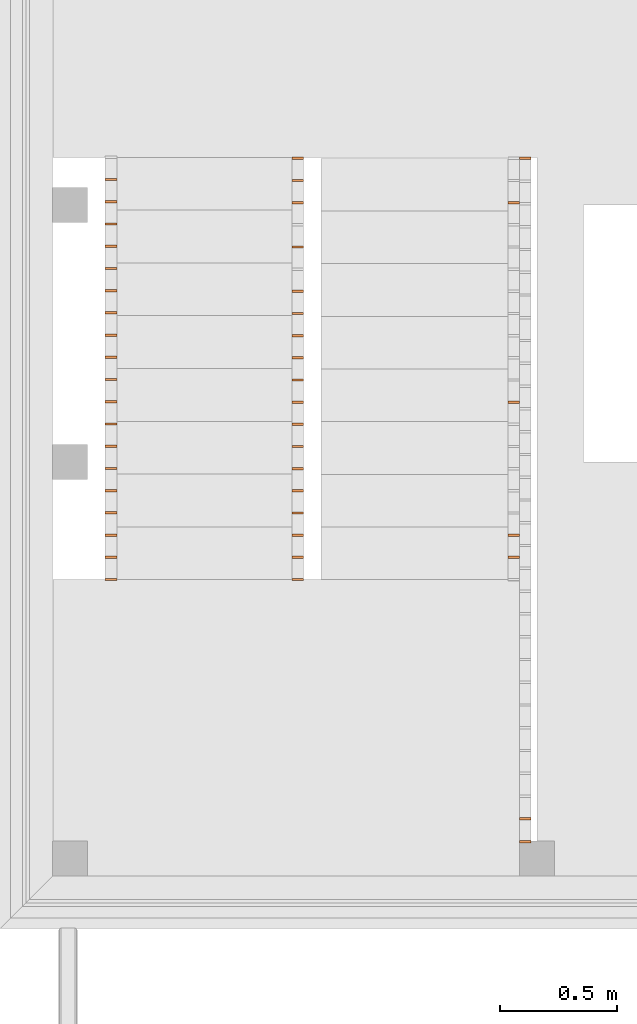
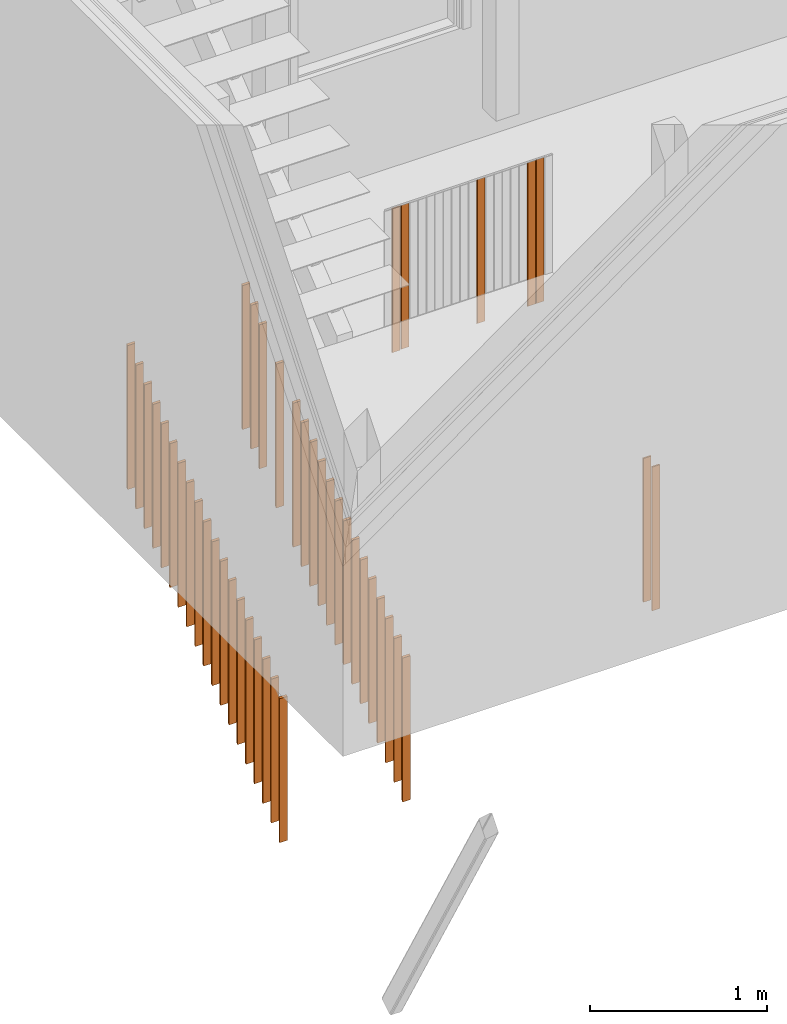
# One storey, part 93 of 100: 44 proxies, 4 elements without a shape of their own.
"""IFC2X3 building model written with IfcOpenShell, lengths in millimetres."""

from ifc_helpers import new_model, entity, si_unit, converted_unit, derived_unit, money_unit, direction, frame, origin_with_axes, place, context, subcontext, project, spatial, faceted_brep, material, type_object, element, aggregate, save


model = new_model("IFC2X3")

# Units and contexts
model_context = context("Model", 3, precision=0.01, world=origin_with_axes(), true_north=direction((0.0, 1.0)))
body_context = subcontext(model_context, "Body", "Model", "MODEL_VIEW")
ifc_project = project(units=[si_unit("LENGTHUNIT", "METRE", prefix="MILLI"), si_unit("AREAUNIT", "SQUARE_METRE"), si_unit("VOLUMEUNIT", "CUBIC_METRE"), converted_unit("PLANEANGLEUNIT", "DEGREE", entity("IfcPlaneAngleMeasure", 0.0174532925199), si_unit("PLANEANGLEUNIT", "RADIAN"), dimensions=[0, 0, 0, 0, 0, 0, 0]), si_unit("SOLIDANGLEUNIT", "STERADIAN"), money_unit("EUR"), converted_unit("TIMEUNIT", "Year", entity("IfcTimeMeasure", 31556926.0), si_unit("TIMEUNIT", "SECOND"), dimensions=[0, 0, 1, 0, 0, 0, 0]), si_unit("MASSUNIT", "GRAM", prefix="KILO"), si_unit("THERMODYNAMICTEMPERATUREUNIT", "DEGREE_CELSIUS"), si_unit("LUMINOUSINTENSITYUNIT", "LUMEN"), si_unit("ENERGYUNIT", "JOULE", prefix="MEGA"), derived_unit("THERMALCONDUCTANCEUNIT", [(si_unit("POWERUNIT", "WATT"), 1), (si_unit("LENGTHUNIT", "METRE"), -1), (si_unit("THERMODYNAMICTEMPERATUREUNIT", "KELVIN"), -1)]), derived_unit("SPECIFICHEATCAPACITYUNIT", [(si_unit("ENERGYUNIT", "JOULE"), 1), (si_unit("MASSUNIT", "GRAM", prefix="KILO"), -1), (si_unit("THERMODYNAMICTEMPERATUREUNIT", "KELVIN"), -1)]), derived_unit("MASSDENSITYUNIT", [(si_unit("MASSUNIT", "GRAM", prefix="KILO"), 1), (si_unit("VOLUMEUNIT", "CUBIC_METRE"), -1)])], contexts=[model_context])

# Site, building, storey
site_placement = place(None, origin_with_axes())
site = spatial("IfcSite", under=ifc_project, at=site_placement, Name="Politse- ja Piirivalveameti ning Päästeameti ühishoone", CompositionType="ELEMENT")
building_placement = place(site_placement, origin_with_axes())
building = spatial("IfcBuilding", under=site, at=building_placement, Name="Politse- ja Piirivalveameti ning Päästeameti ühishoone", CompositionType="ELEMENT")
storey_placement = place(building_placement, frame((0.0, 0.0, 3800.0), z_axis=(0.0, 0.0, 1.0), x_axis=(1.0, 0.0, 0.0)))
storey = spatial("IfcBuildingStorey", under=building, at=storey_placement, Name="Teine korrus", CompositionType="ELEMENT", Elevation=3800.0)

# Railing, proxies
railing_type = type_object("IfcRailingType", Name="Railing Type", PredefinedType="NOTDEFINED")
railing_1_placement = place(storey_placement, frame((-12181.9616228, 2843.99975677, -499.999968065), z_axis=(0.0, 0.0, 1.0), x_axis=(1.0, 0.0, 0.0)))
railing_1 = element("IfcRailing", 1, at=railing_1_placement, inside=storey, type_object=railing_type, Name="PIIRE 2", PredefinedType="NOTDEFINED")
ifc_material = material(Name="Teras - Konstruktsioon")
building_element_proxy_type = type_object("IfcBuildingElementProxyType", Name="IfcBuildingElementProxy", PredefinedType="NOTDEFINED")
proxy_1_placement = place(railing_1_placement, frame((25.0, 156.927427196, 0.0), z_axis=(0.0, 0.0, 1.0), x_axis=(1.0, 0.0, 0.0)))
proxy_1 = element("IfcBuildingElementProxy", 2, at=proxy_1_placement, type_object=building_element_proxy_type, material=ifc_material, Name="PIIRDE POST - 001", context=body_context, shape_type="Brep", body=[
    faceted_brep([(-25.0, -5.0, 0.0), (25.0, -5.0, 0.0), (25.0, -5.0, 990.0), (-25.0, -5.0, 990.0), (-25.0, 5.0, 0.0), (25.0, 5.0, 0.0), (25.0, 5.0, 990.0), (-25.0, 5.0, 990.0)], [[[0, 1, 2, 3]], [[0, 4, 5, 1]], [[1, 5, 6, 2]], [[3, 2, 6, 7]], [[4, 0, 3, 7]], [[5, 4, 7, 6]]]),
])
proxy_2_placement = place(railing_1_placement, frame((25.0, -2771.82361446, 0.0), z_axis=(0.0, 0.0, 1.0), x_axis=(1.0, 0.0, 0.0)))
proxy_2 = element("IfcBuildingElementProxy", 3, at=proxy_2_placement, type_object=building_element_proxy_type, material=ifc_material, Name="PIIRDE POST - 001", context=body_context, shape_type="Brep", body=[
    faceted_brep([(-25.0, -5.0, 0.0), (25.0, -5.0, 0.0), (25.0, -5.0, 990.0), (-25.0, -5.0, 990.0), (-25.0, 5.0, 0.0), (25.0, 5.0, 0.0), (25.0, 5.0, 990.0), (-25.0, 5.0, 990.0)], [[[0, 1, 2, 3]], [[0, 4, 5, 1]], [[1, 5, 6, 2]], [[3, 2, 6, 7]], [[4, 0, 3, 7]], [[5, 4, 7, 6]]]),
])
proxy_3_placement = place(railing_1_placement, frame((25.0, -2674.19857974, -1.25516996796e-05), z_axis=(0.0, 0.0, 1.0), x_axis=(1.0, 0.0, 0.0)))
proxy_3 = element("IfcBuildingElementProxy", 4, at=proxy_3_placement, type_object=building_element_proxy_type, material=ifc_material, Name="BALUSTER - 001", context=body_context, shape_type="Brep", body=[
    faceted_brep([(-25.0, -5.0, 0.0), (25.0, -5.0, 0.0), (25.0, -5.0, 990.000012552), (-25.0, -5.0, 990.000012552), (-25.0, 5.0, 0.0), (25.0, 5.0, 0.0), (25.0, 5.0, 990.000012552), (-25.0, 5.0, 990.000012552)], [[[0, 1, 2, 3]], [[0, 4, 5, 1]], [[1, 5, 6, 2]], [[3, 2, 6, 7]], [[4, 0, 3, 7]], [[5, 4, 7, 6]]]),
])
aggregate(railing_1, [proxy_1, proxy_2, proxy_3])

railing_2_placement = place(storey_placement, frame((-13107.2062017, 2701.0725728, -2150.0), z_axis=(0.0, 0.0, 1.0), x_axis=(1.0, 0.0, 0.0)))
railing_2 = element("IfcRailing", 5, at=railing_2_placement, inside=storey, type_object=railing_type, Name="PIIRE 2", PredefinedType="NOTDEFINED")
proxy_4_placement = place(railing_2_placement, frame((-25.0, 299.854611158, 1466.66666667), z_axis=(0.0, 0.0, 1.0), x_axis=(1.0, 0.0, 0.0)))
proxy_4 = element("IfcBuildingElementProxy", 6, at=proxy_4_placement, type_object=building_element_proxy_type, material=ifc_material, Name="PIIRDE POST - 001", context=body_context, shape_type="Brep", body=[
    faceted_brep([(-25.0, -5.0, -4.06182724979), (25.0, -5.0, -4.06182724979), (25.0, -5.0, 985.93817275), (-25.0, -5.0, 985.93817275), (-25.0, 5.0, 4.06182724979), (25.0, 5.0, 4.06182724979), (25.0, 5.0, 994.06182725), (-25.0, 5.0, 994.06182725)], [[[0, 1, 2, 3]], [[0, 4, 5, 1]], [[1, 5, 6, 2]], [[3, 2, 6, 7]], [[4, 0, 3, 7]], [[5, 4, 7, 6]]]),
])
proxy_5_placement = place(railing_2_placement, frame((-25.0, -1505.5725728, 0.0), z_axis=(0.0, 0.0, 1.0), x_axis=(1.0, 0.0, 0.0)))
proxy_5 = element("IfcBuildingElementProxy", 7, at=proxy_5_placement, type_object=building_element_proxy_type, material=ifc_material, Name="PIIRDE POST - 001", context=body_context, shape_type="Brep", body=[
    faceted_brep([(-25.0, -5.0, -4.06182724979), (25.0, -5.0, -4.06182724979), (25.0, -5.0, 985.93817275), (-25.0, -5.0, 985.93817275), (-25.0, 5.0, 4.06182724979), (25.0, 5.0, 4.06182724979), (25.0, 5.0, 994.06182725), (-25.0, 5.0, 994.06182725)], [[[0, 1, 2, 3]], [[0, 4, 5, 1]], [[1, 5, 6, 2]], [[3, 2, 6, 7]], [[4, 0, 3, 7]], [[5, 4, 7, 6]]]),
])
proxy_6_placement = place(railing_2_placement, frame((-25.0, 204.832127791, 1389.47367166), z_axis=(0.0, 0.0, 1.0), x_axis=(1.0, 0.0, 0.0)))
proxy_6 = element("IfcBuildingElementProxy", 8, at=proxy_6_placement, type_object=building_element_proxy_type, material=ifc_material, Name="BALUSTER - 001", context=body_context, shape_type="Brep", body=[
    faceted_brep([(-25.0, -5.0, -4.06182724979), (25.0, -5.0, -4.06182724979), (25.0, -5.0, 985.938185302), (-25.0, -5.0, 985.938185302), (-25.0, 5.0, 4.06182724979), (25.0, 5.0, 4.06182724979), (25.0, 5.0, 994.061839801), (-25.0, 5.0, 994.061839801)], [[[0, 1, 2, 3]], [[0, 4, 5, 1]], [[1, 5, 6, 2]], [[3, 2, 6, 7]], [[4, 0, 3, 7]], [[5, 4, 7, 6]]]),
])
proxy_7_placement = place(railing_2_placement, frame((-25.0, 109.809644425, 1312.2806892), z_axis=(0.0, 0.0, 1.0), x_axis=(1.0, 0.0, 0.0)))
proxy_7 = element("IfcBuildingElementProxy", 9, at=proxy_7_placement, type_object=building_element_proxy_type, material=ifc_material, Name="BALUSTER - 001", context=body_context, shape_type="Brep", body=[
    faceted_brep([(-25.0, -5.0, -4.06182724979), (25.0, -5.0, -4.06182724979), (25.0, -5.0, 985.938185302), (-25.0, -5.0, 985.938185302), (-25.0, 5.0, 4.06182724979), (25.0, 5.0, 4.06182724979), (25.0, 5.0, 994.061839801), (-25.0, 5.0, 994.061839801)], [[[0, 1, 2, 3]], [[0, 4, 5, 1]], [[1, 5, 6, 2]], [[3, 2, 6, 7]], [[4, 0, 3, 7]], [[5, 4, 7, 6]]]),
])
proxy_8_placement = place(railing_2_placement, frame((-25.0, -80.235322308, 1157.89472429), z_axis=(0.0, 0.0, 1.0), x_axis=(1.0, 0.0, 0.0)))
proxy_8 = element("IfcBuildingElementProxy", 10, at=proxy_8_placement, type_object=building_element_proxy_type, material=ifc_material, Name="BALUSTER - 001", context=body_context, shape_type="Brep", body=[
    faceted_brep([(-25.0, -5.0, -4.06182724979), (25.0, -5.0, -4.06182724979), (25.0, -5.0, 985.938185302), (-25.0, -5.0, 985.938185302), (-25.0, 5.0, 4.06182724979), (25.0, 5.0, 4.06182724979), (25.0, 5.0, 994.061839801), (-25.0, 5.0, 994.061839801)], [[[0, 1, 2, 3]], [[0, 4, 5, 1]], [[1, 5, 6, 2]], [[3, 2, 6, 7]], [[4, 0, 3, 7]], [[5, 4, 7, 6]]]),
])
proxy_9_placement = place(railing_2_placement, frame((-25.0, -270.280289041, 1003.50875938), z_axis=(0.0, 0.0, 1.0), x_axis=(1.0, 0.0, 0.0)))
proxy_9 = element("IfcBuildingElementProxy", 11, at=proxy_9_placement, type_object=building_element_proxy_type, material=ifc_material, Name="BALUSTER - 001", context=body_context, shape_type="Brep", body=[
    faceted_brep([(-25.0, -5.0, -4.06182724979), (25.0, -5.0, -4.06182724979), (25.0, -5.0, 985.938185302), (-25.0, -5.0, 985.938185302), (-25.0, 5.0, 4.06182724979), (25.0, 5.0, 4.06182724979), (25.0, 5.0, 994.061839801), (-25.0, 5.0, 994.061839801)], [[[0, 1, 2, 3]], [[0, 4, 5, 1]], [[1, 5, 6, 2]], [[3, 2, 6, 7]], [[4, 0, 3, 7]], [[5, 4, 7, 6]]]),
])
proxy_10_placement = place(railing_2_placement, frame((-25.0, -365.302772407, 926.315776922), z_axis=(0.0, 0.0, 1.0), x_axis=(1.0, 0.0, 0.0)))
proxy_10 = element("IfcBuildingElementProxy", 12, at=proxy_10_placement, type_object=building_element_proxy_type, material=ifc_material, Name="BALUSTER - 001", context=body_context, shape_type="Brep", body=[
    faceted_brep([(-25.0, -5.0, -4.06182724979), (25.0, -5.0, -4.06182724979), (25.0, -5.0, 985.938185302), (-25.0, -5.0, 985.938185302), (-25.0, 5.0, 4.06182724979), (25.0, 5.0, 4.06182724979), (25.0, 5.0, 994.061839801), (-25.0, 5.0, 994.061839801)], [[[0, 1, 2, 3]], [[0, 4, 5, 1]], [[1, 5, 6, 2]], [[3, 2, 6, 7]], [[4, 0, 3, 7]], [[5, 4, 7, 6]]]),
])
proxy_11_placement = place(railing_2_placement, frame((-25.0, -460.325255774, 849.122794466), z_axis=(0.0, 0.0, 1.0), x_axis=(1.0, 0.0, 0.0)))
proxy_11 = element("IfcBuildingElementProxy", 13, at=proxy_11_placement, type_object=building_element_proxy_type, material=ifc_material, Name="BALUSTER - 001", context=body_context, shape_type="Brep", body=[
    faceted_brep([(-25.0, -5.0, -4.06182724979), (25.0, -5.0, -4.06182724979), (25.0, -5.0, 985.938185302), (-25.0, -5.0, 985.938185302), (-25.0, 5.0, 4.06182724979), (25.0, 5.0, 4.06182724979), (25.0, 5.0, 994.061839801), (-25.0, 5.0, 994.061839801)], [[[0, 1, 2, 3]], [[0, 4, 5, 1]], [[1, 5, 6, 2]], [[3, 2, 6, 7]], [[4, 0, 3, 7]], [[5, 4, 7, 6]]]),
])
proxy_12_placement = place(railing_2_placement, frame((-25.0, -555.34773914, 771.92981201), z_axis=(0.0, 0.0, 1.0), x_axis=(1.0, 0.0, 0.0)))
proxy_12 = element("IfcBuildingElementProxy", 14, at=proxy_12_placement, type_object=building_element_proxy_type, material=ifc_material, Name="BALUSTER - 001", context=body_context, shape_type="Brep", body=[
    faceted_brep([(-25.0, -5.0, -4.06182724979), (25.0, -5.0, -4.06182724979), (25.0, -5.0, 985.938185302), (-25.0, -5.0, 985.938185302), (-25.0, 5.0, 4.06182724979), (25.0, 5.0, 4.06182724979), (25.0, 5.0, 994.061839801), (-25.0, 5.0, 994.061839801)], [[[0, 1, 2, 3]], [[0, 4, 5, 1]], [[1, 5, 6, 2]], [[3, 2, 6, 7]], [[4, 0, 3, 7]], [[5, 4, 7, 6]]]),
])
proxy_13_placement = place(railing_2_placement, frame((-25.0, -650.370222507, 694.736829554), z_axis=(0.0, 0.0, 1.0), x_axis=(1.0, 0.0, 0.0)))
proxy_13 = element("IfcBuildingElementProxy", 15, at=proxy_13_placement, type_object=building_element_proxy_type, material=ifc_material, Name="BALUSTER - 001", context=body_context, shape_type="Brep", body=[
    faceted_brep([(-25.0, -5.0, -4.06182724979), (25.0, -5.0, -4.06182724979), (25.0, -5.0, 985.938185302), (-25.0, -5.0, 985.938185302), (-25.0, 5.0, 4.06182724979), (25.0, 5.0, 4.06182724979), (25.0, 5.0, 994.061839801), (-25.0, 5.0, 994.061839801)], [[[0, 1, 2, 3]], [[0, 4, 5, 1]], [[1, 5, 6, 2]], [[3, 2, 6, 7]], [[4, 0, 3, 7]], [[5, 4, 7, 6]]]),
])
proxy_14_placement = place(railing_2_placement, frame((-25.0, -745.392705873, 617.543847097), z_axis=(0.0, 0.0, 1.0), x_axis=(1.0, 0.0, 0.0)))
proxy_14 = element("IfcBuildingElementProxy", 16, at=proxy_14_placement, type_object=building_element_proxy_type, material=ifc_material, Name="BALUSTER - 001", context=body_context, shape_type="Brep", body=[
    faceted_brep([(-25.0, -5.0, -4.06182724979), (25.0, -5.0, -4.06182724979), (25.0, -5.0, 985.938185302), (-25.0, -5.0, 985.938185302), (-25.0, 5.0, 4.06182724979), (25.0, 5.0, 4.06182724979), (25.0, 5.0, 994.061839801), (-25.0, 5.0, 994.061839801)], [[[0, 1, 2, 3]], [[0, 4, 5, 1]], [[1, 5, 6, 2]], [[3, 2, 6, 7]], [[4, 0, 3, 7]], [[5, 4, 7, 6]]]),
])
proxy_15_placement = place(railing_2_placement, frame((-25.0, -840.415189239, 540.350864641), z_axis=(0.0, 0.0, 1.0), x_axis=(1.0, 0.0, 0.0)))
proxy_15 = element("IfcBuildingElementProxy", 17, at=proxy_15_placement, type_object=building_element_proxy_type, material=ifc_material, Name="BALUSTER - 001", context=body_context, shape_type="Brep", body=[
    faceted_brep([(-25.0, -5.0, -4.06182724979), (25.0, -5.0, -4.06182724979), (25.0, -5.0, 985.938185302), (-25.0, -5.0, 985.938185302), (-25.0, 5.0, 4.06182724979), (25.0, 5.0, 4.06182724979), (25.0, 5.0, 994.061839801), (-25.0, 5.0, 994.061839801)], [[[0, 1, 2, 3]], [[0, 4, 5, 1]], [[1, 5, 6, 2]], [[3, 2, 6, 7]], [[4, 0, 3, 7]], [[5, 4, 7, 6]]]),
])
proxy_16_placement = place(railing_2_placement, frame((-25.0, -935.437672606, 463.157882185), z_axis=(0.0, 0.0, 1.0), x_axis=(1.0, 0.0, 0.0)))
proxy_16 = element("IfcBuildingElementProxy", 18, at=proxy_16_placement, type_object=building_element_proxy_type, material=ifc_material, Name="BALUSTER - 001", context=body_context, shape_type="Brep", body=[
    faceted_brep([(-25.0, -5.0, -4.06182724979), (25.0, -5.0, -4.06182724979), (25.0, -5.0, 985.938185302), (-25.0, -5.0, 985.938185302), (-25.0, 5.0, 4.06182724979), (25.0, 5.0, 4.06182724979), (25.0, 5.0, 994.061839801), (-25.0, 5.0, 994.061839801)], [[[0, 1, 2, 3]], [[0, 4, 5, 1]], [[1, 5, 6, 2]], [[3, 2, 6, 7]], [[4, 0, 3, 7]], [[5, 4, 7, 6]]]),
])
proxy_17_placement = place(railing_2_placement, frame((-25.0, -1030.46015597, 385.964899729), z_axis=(0.0, 0.0, 1.0), x_axis=(1.0, 0.0, 0.0)))
proxy_17 = element("IfcBuildingElementProxy", 19, at=proxy_17_placement, type_object=building_element_proxy_type, material=ifc_material, Name="BALUSTER - 001", context=body_context, shape_type="Brep", body=[
    faceted_brep([(-25.0, -5.0, -4.06182724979), (25.0, -5.0, -4.06182724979), (25.0, -5.0, 985.938185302), (-25.0, -5.0, 985.938185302), (-25.0, 5.0, 4.06182724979), (25.0, 5.0, 4.06182724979), (25.0, 5.0, 994.061839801), (-25.0, 5.0, 994.061839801)], [[[0, 1, 2, 3]], [[0, 4, 5, 1]], [[1, 5, 6, 2]], [[3, 2, 6, 7]], [[4, 0, 3, 7]], [[5, 4, 7, 6]]]),
])
proxy_18_placement = place(railing_2_placement, frame((-25.0, -1125.48263934, 308.771917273), z_axis=(0.0, 0.0, 1.0), x_axis=(1.0, 0.0, 0.0)))
proxy_18 = element("IfcBuildingElementProxy", 20, at=proxy_18_placement, type_object=building_element_proxy_type, material=ifc_material, Name="BALUSTER - 001", context=body_context, shape_type="Brep", body=[
    faceted_brep([(-25.0, -5.0, -4.06182724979), (25.0, -5.0, -4.06182724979), (25.0, -5.0, 985.938185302), (-25.0, -5.0, 985.938185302), (-25.0, 5.0, 4.06182724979), (25.0, 5.0, 4.06182724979), (25.0, 5.0, 994.061839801), (-25.0, 5.0, 994.061839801)], [[[0, 1, 2, 3]], [[0, 4, 5, 1]], [[1, 5, 6, 2]], [[3, 2, 6, 7]], [[4, 0, 3, 7]], [[5, 4, 7, 6]]]),
])
proxy_19_placement = place(railing_2_placement, frame((-25.0, -1220.50512271, 231.578934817), z_axis=(0.0, 0.0, 1.0), x_axis=(1.0, 0.0, 0.0)))
proxy_19 = element("IfcBuildingElementProxy", 21, at=proxy_19_placement, type_object=building_element_proxy_type, material=ifc_material, Name="BALUSTER - 001", context=body_context, shape_type="Brep", body=[
    faceted_brep([(-25.0, -5.0, -4.06182724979), (25.0, -5.0, -4.06182724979), (25.0, -5.0, 985.938185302), (-25.0, -5.0, 985.938185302), (-25.0, 5.0, 4.06182724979), (25.0, 5.0, 4.06182724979), (25.0, 5.0, 994.061839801), (-25.0, 5.0, 994.061839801)], [[[0, 1, 2, 3]], [[0, 4, 5, 1]], [[1, 5, 6, 2]], [[3, 2, 6, 7]], [[4, 0, 3, 7]], [[5, 4, 7, 6]]]),
])
proxy_20_placement = place(railing_2_placement, frame((-25.0, -1315.52760607, 154.385952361), z_axis=(0.0, 0.0, 1.0), x_axis=(1.0, 0.0, 0.0)))
proxy_20 = element("IfcBuildingElementProxy", 22, at=proxy_20_placement, type_object=building_element_proxy_type, material=ifc_material, Name="BALUSTER - 001", context=body_context, shape_type="Brep", body=[
    faceted_brep([(-25.0, -5.0, -4.06182724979), (25.0, -5.0, -4.06182724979), (25.0, -5.0, 985.938185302), (-25.0, -5.0, 985.938185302), (-25.0, 5.0, 4.06182724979), (25.0, 5.0, 4.06182724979), (25.0, 5.0, 994.061839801), (-25.0, 5.0, 994.061839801)], [[[0, 1, 2, 3]], [[0, 4, 5, 1]], [[1, 5, 6, 2]], [[3, 2, 6, 7]], [[4, 0, 3, 7]], [[5, 4, 7, 6]]]),
])
proxy_21_placement = place(railing_2_placement, frame((-25.0, -1410.55008944, 77.1929699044), z_axis=(0.0, 0.0, 1.0), x_axis=(1.0, 0.0, 0.0)))
proxy_21 = element("IfcBuildingElementProxy", 23, at=proxy_21_placement, type_object=building_element_proxy_type, material=ifc_material, Name="BALUSTER - 001", context=body_context, shape_type="Brep", body=[
    faceted_brep([(-25.0, -5.0, -4.06182724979), (25.0, -5.0, -4.06182724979), (25.0, -5.0, 985.938185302), (-25.0, -5.0, 985.938185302), (-25.0, 5.0, 4.06182724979), (25.0, 5.0, 4.06182724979), (25.0, 5.0, 994.061839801), (-25.0, 5.0, 994.061839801)], [[[0, 1, 2, 3]], [[0, 4, 5, 1]], [[1, 5, 6, 2]], [[3, 2, 6, 7]], [[4, 0, 3, 7]], [[5, 4, 7, 6]]]),
])
aggregate(railing_2, [proxy_4, proxy_5, proxy_6, proxy_7, proxy_8, proxy_9, proxy_10, proxy_11, proxy_12, proxy_13, proxy_14, proxy_15, proxy_16, proxy_17, proxy_18, proxy_19, proxy_20, proxy_21])

railing_3_placement = place(storey_placement, frame((-13957.0653854, 2701.0725728, -2150.0), z_axis=(0.0, 0.0, 1.0), x_axis=(1.0, 0.0, 0.0)))
railing_3 = element("IfcRailing", 24, at=railing_3_placement, inside=storey, type_object=railing_type, Name="PIIRE 2", PredefinedType="NOTDEFINED")
proxy_22_placement = place(railing_3_placement, frame((25.0, -1505.5725728, 0.0), z_axis=(0.0, 0.0, 1.0), x_axis=(1.0, 0.0, 0.0)))
proxy_22 = element("IfcBuildingElementProxy", 25, at=proxy_22_placement, type_object=building_element_proxy_type, material=ifc_material, Name="PIIRDE POST - 001", context=body_context, shape_type="Brep", body=[
    faceted_brep([(-25.0, -5.0, -4.0522425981), (25.0, -5.0, -4.0522425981), (25.0, -5.0, 985.947757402), (-25.0, -5.0, 985.947757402), (-25.0, 5.0, 4.0522425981), (25.0, 5.0, 4.0522425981), (25.0, 5.0, 994.052242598), (-25.0, 5.0, 994.052242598)], [[[0, 1, 2, 3]], [[0, 4, 5, 1]], [[1, 5, 6, 2]], [[3, 2, 6, 7]], [[4, 0, 3, 7]], [[5, 4, 7, 6]]]),
])
proxy_23_placement = place(railing_3_placement, frame((25.0, 208.877698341, 1389.47367166), z_axis=(0.0, 0.0, 1.0), x_axis=(1.0, 0.0, 0.0)))
proxy_23 = element("IfcBuildingElementProxy", 26, at=proxy_23_placement, type_object=building_element_proxy_type, material=ifc_material, Name="BALUSTER - 001", context=body_context, shape_type="Brep", body=[
    faceted_brep([(-25.0, -5.0, -4.0522425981), (25.0, -5.0, -4.0522425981), (25.0, -5.0, 985.947769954), (-25.0, -5.0, 985.947769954), (-25.0, 5.0, 4.0522425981), (25.0, 5.0, 4.0522425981), (25.0, 5.0, 994.05225515), (-25.0, 5.0, 994.05225515)], [[[0, 1, 2, 3]], [[0, 4, 5, 1]], [[1, 5, 6, 2]], [[3, 2, 6, 7]], [[4, 0, 3, 7]], [[5, 4, 7, 6]]]),
])
proxy_24_placement = place(railing_3_placement, frame((25.0, 113.630461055, 1312.2806892), z_axis=(0.0, 0.0, 1.0), x_axis=(1.0, 0.0, 0.0)))
proxy_24 = element("IfcBuildingElementProxy", 27, at=proxy_24_placement, type_object=building_element_proxy_type, material=ifc_material, Name="BALUSTER - 001", context=body_context, shape_type="Brep", body=[
    faceted_brep([(-25.0, -5.0, -4.0522425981), (25.0, -5.0, -4.0522425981), (25.0, -5.0, 985.947769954), (-25.0, -5.0, 985.947769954), (-25.0, 5.0, 4.0522425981), (25.0, 5.0, 4.0522425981), (25.0, 5.0, 994.05225515), (-25.0, 5.0, 994.05225515)], [[[0, 1, 2, 3]], [[0, 4, 5, 1]], [[1, 5, 6, 2]], [[3, 2, 6, 7]], [[4, 0, 3, 7]], [[5, 4, 7, 6]]]),
])
proxy_25_placement = place(railing_3_placement, frame((25.0, 18.3832237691, 1235.08770675), z_axis=(0.0, 0.0, 1.0), x_axis=(1.0, 0.0, 0.0)))
proxy_25 = element("IfcBuildingElementProxy", 28, at=proxy_25_placement, type_object=building_element_proxy_type, material=ifc_material, Name="BALUSTER - 001", context=body_context, shape_type="Brep", body=[
    faceted_brep([(-25.0, -5.0, -4.0522425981), (25.0, -5.0, -4.0522425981), (25.0, -5.0, 985.947769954), (-25.0, -5.0, 985.947769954), (-25.0, 5.0, 4.0522425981), (25.0, 5.0, 4.0522425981), (25.0, 5.0, 994.05225515), (-25.0, 5.0, 994.05225515)], [[[0, 1, 2, 3]], [[0, 4, 5, 1]], [[1, 5, 6, 2]], [[3, 2, 6, 7]], [[4, 0, 3, 7]], [[5, 4, 7, 6]]]),
])
proxy_26_placement = place(railing_3_placement, frame((25.0, -76.8640135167, 1157.89472429), z_axis=(0.0, 0.0, 1.0), x_axis=(1.0, 0.0, 0.0)))
proxy_26 = element("IfcBuildingElementProxy", 29, at=proxy_26_placement, type_object=building_element_proxy_type, material=ifc_material, Name="BALUSTER - 001", context=body_context, shape_type="Brep", body=[
    faceted_brep([(-25.0, -5.0, -4.0522425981), (25.0, -5.0, -4.0522425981), (25.0, -5.0, 985.947769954), (-25.0, -5.0, 985.947769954), (-25.0, 5.0, 4.0522425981), (25.0, 5.0, 4.0522425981), (25.0, 5.0, 994.05225515), (-25.0, 5.0, 994.05225515)], [[[0, 1, 2, 3]], [[0, 4, 5, 1]], [[1, 5, 6, 2]], [[3, 2, 6, 7]], [[4, 0, 3, 7]], [[5, 4, 7, 6]]]),
])
proxy_27_placement = place(railing_3_placement, frame((25.0, -172.111250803, 1080.70174183), z_axis=(0.0, 0.0, 1.0), x_axis=(1.0, 0.0, 0.0)))
proxy_27 = element("IfcBuildingElementProxy", 30, at=proxy_27_placement, type_object=building_element_proxy_type, material=ifc_material, Name="BALUSTER - 001", context=body_context, shape_type="Brep", body=[
    faceted_brep([(-25.0, -5.0, -4.0522425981), (25.0, -5.0, -4.0522425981), (25.0, -5.0, 985.947769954), (-25.0, -5.0, 985.947769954), (-25.0, 5.0, 4.0522425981), (25.0, 5.0, 4.0522425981), (25.0, 5.0, 994.05225515), (-25.0, 5.0, 994.05225515)], [[[0, 1, 2, 3]], [[0, 4, 5, 1]], [[1, 5, 6, 2]], [[3, 2, 6, 7]], [[4, 0, 3, 7]], [[5, 4, 7, 6]]]),
])
proxy_28_placement = place(railing_3_placement, frame((25.0, -267.358488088, 1003.50875938), z_axis=(0.0, 0.0, 1.0), x_axis=(1.0, 0.0, 0.0)))
proxy_28 = element("IfcBuildingElementProxy", 31, at=proxy_28_placement, type_object=building_element_proxy_type, material=ifc_material, Name="BALUSTER - 001", context=body_context, shape_type="Brep", body=[
    faceted_brep([(-25.0, -5.0, -4.0522425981), (25.0, -5.0, -4.0522425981), (25.0, -5.0, 985.947769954), (-25.0, -5.0, 985.947769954), (-25.0, 5.0, 4.0522425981), (25.0, 5.0, 4.0522425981), (25.0, 5.0, 994.05225515), (-25.0, 5.0, 994.05225515)], [[[0, 1, 2, 3]], [[0, 4, 5, 1]], [[1, 5, 6, 2]], [[3, 2, 6, 7]], [[4, 0, 3, 7]], [[5, 4, 7, 6]]]),
])
proxy_29_placement = place(railing_3_placement, frame((25.0, -362.605725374, 926.315776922), z_axis=(0.0, 0.0, 1.0), x_axis=(1.0, 0.0, 0.0)))
proxy_29 = element("IfcBuildingElementProxy", 32, at=proxy_29_placement, type_object=building_element_proxy_type, material=ifc_material, Name="BALUSTER - 001", context=body_context, shape_type="Brep", body=[
    faceted_brep([(-25.0, -5.0, -4.0522425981), (25.0, -5.0, -4.0522425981), (25.0, -5.0, 985.947769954), (-25.0, -5.0, 985.947769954), (-25.0, 5.0, 4.0522425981), (25.0, 5.0, 4.0522425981), (25.0, 5.0, 994.05225515), (-25.0, 5.0, 994.05225515)], [[[0, 1, 2, 3]], [[0, 4, 5, 1]], [[1, 5, 6, 2]], [[3, 2, 6, 7]], [[4, 0, 3, 7]], [[5, 4, 7, 6]]]),
])
proxy_30_placement = place(railing_3_placement, frame((25.0, -457.85296266, 849.122794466), z_axis=(0.0, 0.0, 1.0), x_axis=(1.0, 0.0, 0.0)))
proxy_30 = element("IfcBuildingElementProxy", 33, at=proxy_30_placement, type_object=building_element_proxy_type, material=ifc_material, Name="BALUSTER - 001", context=body_context, shape_type="Brep", body=[
    faceted_brep([(-25.0, -5.0, -4.0522425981), (25.0, -5.0, -4.0522425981), (25.0, -5.0, 985.947769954), (-25.0, -5.0, 985.947769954), (-25.0, 5.0, 4.0522425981), (25.0, 5.0, 4.0522425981), (25.0, 5.0, 994.05225515), (-25.0, 5.0, 994.05225515)], [[[0, 1, 2, 3]], [[0, 4, 5, 1]], [[1, 5, 6, 2]], [[3, 2, 6, 7]], [[4, 0, 3, 7]], [[5, 4, 7, 6]]]),
])
proxy_31_placement = place(railing_3_placement, frame((25.0, -553.100199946, 771.92981201), z_axis=(0.0, 0.0, 1.0), x_axis=(1.0, 0.0, 0.0)))
proxy_31 = element("IfcBuildingElementProxy", 34, at=proxy_31_placement, type_object=building_element_proxy_type, material=ifc_material, Name="BALUSTER - 001", context=body_context, shape_type="Brep", body=[
    faceted_brep([(-25.0, -5.0, -4.0522425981), (25.0, -5.0, -4.0522425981), (25.0, -5.0, 985.947769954), (-25.0, -5.0, 985.947769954), (-25.0, 5.0, 4.0522425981), (25.0, 5.0, 4.0522425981), (25.0, 5.0, 994.05225515), (-25.0, 5.0, 994.05225515)], [[[0, 1, 2, 3]], [[0, 4, 5, 1]], [[1, 5, 6, 2]], [[3, 2, 6, 7]], [[4, 0, 3, 7]], [[5, 4, 7, 6]]]),
])
proxy_32_placement = place(railing_3_placement, frame((25.0, -648.347437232, 694.736829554), z_axis=(0.0, 0.0, 1.0), x_axis=(1.0, 0.0, 0.0)))
proxy_32 = element("IfcBuildingElementProxy", 35, at=proxy_32_placement, type_object=building_element_proxy_type, material=ifc_material, Name="BALUSTER - 001", context=body_context, shape_type="Brep", body=[
    faceted_brep([(-25.0, -5.0, -4.0522425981), (25.0, -5.0, -4.0522425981), (25.0, -5.0, 985.947769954), (-25.0, -5.0, 985.947769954), (-25.0, 5.0, 4.0522425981), (25.0, 5.0, 4.0522425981), (25.0, 5.0, 994.05225515), (-25.0, 5.0, 994.05225515)], [[[0, 1, 2, 3]], [[0, 4, 5, 1]], [[1, 5, 6, 2]], [[3, 2, 6, 7]], [[4, 0, 3, 7]], [[5, 4, 7, 6]]]),
])
proxy_33_placement = place(railing_3_placement, frame((25.0, -743.594674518, 617.543847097), z_axis=(0.0, 0.0, 1.0), x_axis=(1.0, 0.0, 0.0)))
proxy_33 = element("IfcBuildingElementProxy", 36, at=proxy_33_placement, type_object=building_element_proxy_type, material=ifc_material, Name="BALUSTER - 001", context=body_context, shape_type="Brep", body=[
    faceted_brep([(-25.0, -5.0, -4.0522425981), (25.0, -5.0, -4.0522425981), (25.0, -5.0, 985.947769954), (-25.0, -5.0, 985.947769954), (-25.0, 5.0, 4.0522425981), (25.0, 5.0, 4.0522425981), (25.0, 5.0, 994.05225515), (-25.0, 5.0, 994.05225515)], [[[0, 1, 2, 3]], [[0, 4, 5, 1]], [[1, 5, 6, 2]], [[3, 2, 6, 7]], [[4, 0, 3, 7]], [[5, 4, 7, 6]]]),
])
proxy_34_placement = place(railing_3_placement, frame((25.0, -838.841911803, 540.350864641), z_axis=(0.0, 0.0, 1.0), x_axis=(1.0, 0.0, 0.0)))
proxy_34 = element("IfcBuildingElementProxy", 37, at=proxy_34_placement, type_object=building_element_proxy_type, material=ifc_material, Name="BALUSTER - 001", context=body_context, shape_type="Brep", body=[
    faceted_brep([(-25.0, -5.0, -4.0522425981), (25.0, -5.0, -4.0522425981), (25.0, -5.0, 985.947769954), (-25.0, -5.0, 985.947769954), (-25.0, 5.0, 4.0522425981), (25.0, 5.0, 4.0522425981), (25.0, 5.0, 994.05225515), (-25.0, 5.0, 994.05225515)], [[[0, 1, 2, 3]], [[0, 4, 5, 1]], [[1, 5, 6, 2]], [[3, 2, 6, 7]], [[4, 0, 3, 7]], [[5, 4, 7, 6]]]),
])
proxy_35_placement = place(railing_3_placement, frame((25.0, -934.089149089, 463.157882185), z_axis=(0.0, 0.0, 1.0), x_axis=(1.0, 0.0, 0.0)))
proxy_35 = element("IfcBuildingElementProxy", 38, at=proxy_35_placement, type_object=building_element_proxy_type, material=ifc_material, Name="BALUSTER - 001", context=body_context, shape_type="Brep", body=[
    faceted_brep([(-25.0, -5.0, -4.0522425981), (25.0, -5.0, -4.0522425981), (25.0, -5.0, 985.947769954), (-25.0, -5.0, 985.947769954), (-25.0, 5.0, 4.0522425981), (25.0, 5.0, 4.0522425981), (25.0, 5.0, 994.05225515), (-25.0, 5.0, 994.05225515)], [[[0, 1, 2, 3]], [[0, 4, 5, 1]], [[1, 5, 6, 2]], [[3, 2, 6, 7]], [[4, 0, 3, 7]], [[5, 4, 7, 6]]]),
])
proxy_36_placement = place(railing_3_placement, frame((25.0, -1029.33638638, 385.964899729), z_axis=(0.0, 0.0, 1.0), x_axis=(1.0, 0.0, 0.0)))
proxy_36 = element("IfcBuildingElementProxy", 39, at=proxy_36_placement, type_object=building_element_proxy_type, material=ifc_material, Name="BALUSTER - 001", context=body_context, shape_type="Brep", body=[
    faceted_brep([(-25.0, -5.0, -4.0522425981), (25.0, -5.0, -4.0522425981), (25.0, -5.0, 985.947769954), (-25.0, -5.0, 985.947769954), (-25.0, 5.0, 4.0522425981), (25.0, 5.0, 4.0522425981), (25.0, 5.0, 994.05225515), (-25.0, 5.0, 994.05225515)], [[[0, 1, 2, 3]], [[0, 4, 5, 1]], [[1, 5, 6, 2]], [[3, 2, 6, 7]], [[4, 0, 3, 7]], [[5, 4, 7, 6]]]),
])
proxy_37_placement = place(railing_3_placement, frame((25.0, -1124.58362366, 308.771917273), z_axis=(0.0, 0.0, 1.0), x_axis=(1.0, 0.0, 0.0)))
proxy_37 = element("IfcBuildingElementProxy", 40, at=proxy_37_placement, type_object=building_element_proxy_type, material=ifc_material, Name="BALUSTER - 001", context=body_context, shape_type="Brep", body=[
    faceted_brep([(-25.0, -5.0, -4.0522425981), (25.0, -5.0, -4.0522425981), (25.0, -5.0, 985.947769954), (-25.0, -5.0, 985.947769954), (-25.0, 5.0, 4.0522425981), (25.0, 5.0, 4.0522425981), (25.0, 5.0, 994.05225515), (-25.0, 5.0, 994.05225515)], [[[0, 1, 2, 3]], [[0, 4, 5, 1]], [[1, 5, 6, 2]], [[3, 2, 6, 7]], [[4, 0, 3, 7]], [[5, 4, 7, 6]]]),
])
proxy_38_placement = place(railing_3_placement, frame((25.0, -1219.83086095, 231.578934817), z_axis=(0.0, 0.0, 1.0), x_axis=(1.0, 0.0, 0.0)))
proxy_38 = element("IfcBuildingElementProxy", 41, at=proxy_38_placement, type_object=building_element_proxy_type, material=ifc_material, Name="BALUSTER - 001", context=body_context, shape_type="Brep", body=[
    faceted_brep([(-25.0, -5.0, -4.0522425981), (25.0, -5.0, -4.0522425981), (25.0, -5.0, 985.947769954), (-25.0, -5.0, 985.947769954), (-25.0, 5.0, 4.0522425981), (25.0, 5.0, 4.0522425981), (25.0, 5.0, 994.05225515), (-25.0, 5.0, 994.05225515)], [[[0, 1, 2, 3]], [[0, 4, 5, 1]], [[1, 5, 6, 2]], [[3, 2, 6, 7]], [[4, 0, 3, 7]], [[5, 4, 7, 6]]]),
])
proxy_39_placement = place(railing_3_placement, frame((25.0, -1315.07809823, 154.385952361), z_axis=(0.0, 0.0, 1.0), x_axis=(1.0, 0.0, 0.0)))
proxy_39 = element("IfcBuildingElementProxy", 42, at=proxy_39_placement, type_object=building_element_proxy_type, material=ifc_material, Name="BALUSTER - 001", context=body_context, shape_type="Brep", body=[
    faceted_brep([(-25.0, -5.0, -4.0522425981), (25.0, -5.0, -4.0522425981), (25.0, -5.0, 985.947769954), (-25.0, -5.0, 985.947769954), (-25.0, 5.0, 4.0522425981), (25.0, 5.0, 4.0522425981), (25.0, 5.0, 994.05225515), (-25.0, 5.0, 994.05225515)], [[[0, 1, 2, 3]], [[0, 4, 5, 1]], [[1, 5, 6, 2]], [[3, 2, 6, 7]], [[4, 0, 3, 7]], [[5, 4, 7, 6]]]),
])
proxy_40_placement = place(railing_3_placement, frame((25.0, -1410.32533552, 77.1929699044), z_axis=(0.0, 0.0, 1.0), x_axis=(1.0, 0.0, 0.0)))
proxy_40 = element("IfcBuildingElementProxy", 43, at=proxy_40_placement, type_object=building_element_proxy_type, material=ifc_material, Name="BALUSTER - 001", context=body_context, shape_type="Brep", body=[
    faceted_brep([(-25.0, -5.0, -4.0522425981), (25.0, -5.0, -4.0522425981), (25.0, -5.0, 985.947769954), (-25.0, -5.0, 985.947769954), (-25.0, 5.0, 4.0522425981), (25.0, 5.0, 4.0522425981), (25.0, 5.0, 994.05225515), (-25.0, 5.0, 994.05225515)], [[[0, 1, 2, 3]], [[0, 4, 5, 1]], [[1, 5, 6, 2]], [[3, 2, 6, 7]], [[4, 0, 3, 7]], [[5, 4, 7, 6]]]),
])
aggregate(railing_3, [proxy_22, proxy_23, proxy_24, proxy_25, proxy_26, proxy_27, proxy_28, proxy_29, proxy_30, proxy_31, proxy_32, proxy_33, proxy_34, proxy_35, proxy_36, proxy_37, proxy_38, proxy_39, proxy_40])

railing_4_placement = place(storey_placement, frame((-12181.6987719, 2843.99975677, -499.999970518), z_axis=(0.0, 0.0, 1.0), x_axis=(1.0, 0.0, 0.0)))
railing_4 = element("IfcRailing", 44, at=railing_4_placement, inside=storey, type_object=railing_type, Name="PIIRE 2", PredefinedType="NOTDEFINED")
proxy_41_placement = place(railing_4_placement, frame((-25.0, -33.3594087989, 154.385952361), z_axis=(0.0, 0.0, 1.0), x_axis=(1.0, 0.0, 0.0)))
proxy_41 = element("IfcBuildingElementProxy", 45, at=proxy_41_placement, type_object=building_element_proxy_type, material=ifc_material, Name="BALUSTER - 001", context=body_context, shape_type="Brep", body=[
    faceted_brep([(-25.0, -5.0, 4.06243551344), (25.0, -5.0, 4.06243551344), (25.0, -5.0, 994.062448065), (-25.0, -5.0, 994.062448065), (-25.0, 5.0, -4.06243551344), (25.0, 5.0, -4.06243551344), (25.0, 5.0, 985.937577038), (-25.0, 5.0, 985.937577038)], [[[0, 1, 2, 3]], [[0, 4, 5, 1]], [[1, 5, 6, 2]], [[3, 2, 6, 7]], [[4, 0, 3, 7]], [[5, 4, 7, 6]]]),
])
proxy_42_placement = place(railing_4_placement, frame((-25.0, -888.433710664, 849.122794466), z_axis=(0.0, 0.0, 1.0), x_axis=(1.0, 0.0, 0.0)))
proxy_42 = element("IfcBuildingElementProxy", 46, at=proxy_42_placement, type_object=building_element_proxy_type, material=ifc_material, Name="BALUSTER - 001", context=body_context, shape_type="Brep", body=[
    faceted_brep([(-25.0, -5.0, 4.06243551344), (25.0, -5.0, 4.06243551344), (25.0, -5.0, 994.062448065), (-25.0, -5.0, 994.062448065), (-25.0, 5.0, -4.06243551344), (25.0, 5.0, -4.06243551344), (25.0, 5.0, 985.937577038), (-25.0, 5.0, 985.937577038)], [[[0, 1, 2, 3]], [[0, 4, 5, 1]], [[1, 5, 6, 2]], [[3, 2, 6, 7]], [[4, 0, 3, 7]], [[5, 4, 7, 6]]]),
])
proxy_43_placement = place(railing_4_placement, frame((-25.0, -1458.48324524, 1312.2806892), z_axis=(0.0, 0.0, 1.0), x_axis=(1.0, 0.0, 0.0)))
proxy_43 = element("IfcBuildingElementProxy", 47, at=proxy_43_placement, type_object=building_element_proxy_type, material=ifc_material, Name="BALUSTER - 001", context=body_context, shape_type="Brep", body=[
    faceted_brep([(-25.0, -5.0, 4.06243551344), (25.0, -5.0, 4.06243551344), (25.0, -5.0, 994.062448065), (-25.0, -5.0, 994.062448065), (-25.0, 5.0, -4.06243551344), (25.0, 5.0, -4.06243551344), (25.0, 5.0, 985.937577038), (-25.0, 5.0, 985.937577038)], [[[0, 1, 2, 3]], [[0, 4, 5, 1]], [[1, 5, 6, 2]], [[3, 2, 6, 7]], [[4, 0, 3, 7]], [[5, 4, 7, 6]]]),
])
proxy_44_placement = place(railing_4_placement, frame((-25.0, -1553.491501, 1389.47367166), z_axis=(0.0, 0.0, 1.0), x_axis=(1.0, 0.0, 0.0)))
proxy_44 = element("IfcBuildingElementProxy", 48, at=proxy_44_placement, type_object=building_element_proxy_type, material=ifc_material, Name="BALUSTER - 001", context=body_context, shape_type="Brep", body=[
    faceted_brep([(-25.0, -5.0, 4.06243551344), (25.0, -5.0, 4.06243551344), (25.0, -5.0, 994.062448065), (-25.0, -5.0, 994.062448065), (-25.0, 5.0, -4.06243551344), (25.0, 5.0, -4.06243551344), (25.0, 5.0, 985.937577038), (-25.0, 5.0, 985.937577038)], [[[0, 1, 2, 3]], [[0, 4, 5, 1]], [[1, 5, 6, 2]], [[3, 2, 6, 7]], [[4, 0, 3, 7]], [[5, 4, 7, 6]]]),
])
aggregate(railing_4, [proxy_41, proxy_42, proxy_43, proxy_44])

save(model, "model.ifc")
